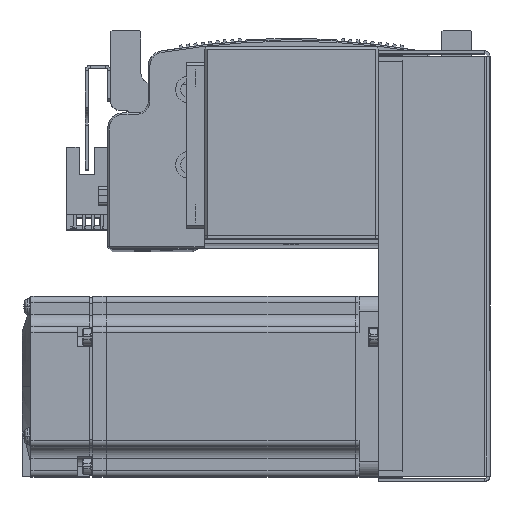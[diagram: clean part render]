
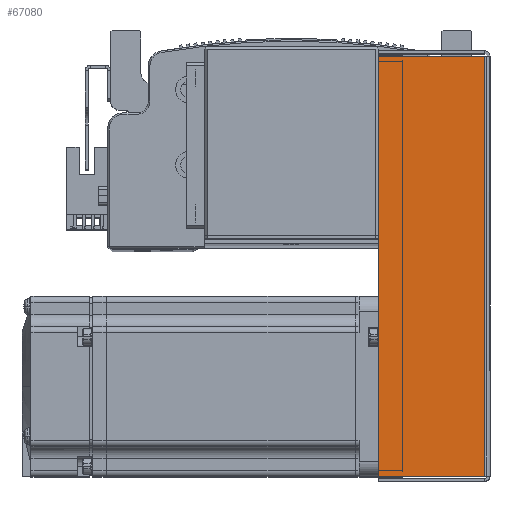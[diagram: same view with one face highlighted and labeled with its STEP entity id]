
A CAD part, top view. The second image highlights one B-rep face of the part: STEP entity #67080.
In plain terms, the highlighted planar face has unit normal (0, 0, 1).
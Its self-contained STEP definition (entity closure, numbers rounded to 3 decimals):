
#7555 = ORIENTED_EDGE ( 'NONE', *, *, #66858, .T. ) ;
#7568 = ORIENTED_EDGE ( 'NONE', *, *, #66816, .F. ) ;
#7571 = ORIENTED_EDGE ( 'NONE', *, *, #66852, .T. ) ;
#7607 = ORIENTED_EDGE ( 'NONE', *, *, #66818, .F. ) ;
#13203 = CARTESIAN_POINT ( 'NONE',  ( 69.793, 36., 33.5 ) ) ;
#13299 = CARTESIAN_POINT ( 'NONE',  ( 69.793, 0.737, 33.5 ) ) ;
#13306 = CARTESIAN_POINT ( 'NONE',  ( -69.793, 0.737, 33.5 ) ) ;
#13320 = CARTESIAN_POINT ( 'NONE',  ( -69.793, 36., 33.5 ) ) ;
#18027 = AXIS2_PLACEMENT_3D ( 'NONE', #35984, #35964, #36002 ) ;
#20749 = VERTEX_POINT ( 'NONE', #13203 ) ;
#20758 = VERTEX_POINT ( 'NONE', #13320 ) ;
#20780 = VERTEX_POINT ( 'NONE', #13306 ) ;
#20794 = VERTEX_POINT ( 'NONE', #13299 ) ;
#35964 = DIRECTION ( 'NONE',  ( 0., 0., -1. ) ) ;
#35971 = PLANE ( 'NONE',  #18027 ) ;
#35984 = CARTESIAN_POINT ( 'NONE',  ( 0., 0., 33.5 ) ) ;
#36002 = DIRECTION ( 'NONE',  ( -1., 0., 0. ) ) ;
#49059 = CARTESIAN_POINT ( 'NONE',  ( -71.5, 0.737, 33.5 ) ) ;
#49061 = CARTESIAN_POINT ( 'NONE',  ( -69.793, 0., 33.5 ) ) ;
#49090 = DIRECTION ( 'NONE',  ( -1., 0., 0. ) ) ;
#49097 = DIRECTION ( 'NONE',  ( 0., 1., 0. ) ) ;
#49214 = CARTESIAN_POINT ( 'NONE',  ( 0., 36., 33.5 ) ) ;
#49215 = DIRECTION ( 'NONE',  ( 0., 1., 0. ) ) ;
#49232 = DIRECTION ( 'NONE',  ( -1., 0., 0. ) ) ;
#49248 = CARTESIAN_POINT ( 'NONE',  ( 69.793, 0., 33.5 ) ) ;
#59907 = FACE_OUTER_BOUND ( 'NONE', #72171, .T. ) ;
#66816 = EDGE_CURVE ( 'NONE', #20794, #20780, #71898, .T. ) ;
#66818 = EDGE_CURVE ( 'NONE', #20780, #20758, #71935, .T. ) ;
#66852 = EDGE_CURVE ( 'NONE', #20794, #20749, #72003, .T. ) ;
#66858 = EDGE_CURVE ( 'NONE', #20749, #20758, #71970, .T. ) ;
#67080 = ADVANCED_FACE ( 'NONE', ( #59907 ), #35971, .F. ) ;
#71898 = LINE ( 'NONE', #49059, #71905 ) ;
#71905 = VECTOR ( 'NONE', #49090, 1000. ) ;
#71919 = VECTOR ( 'NONE', #49097, 1000. ) ;
#71935 = LINE ( 'NONE', #49061, #71919 ) ;
#71961 = VECTOR ( 'NONE', #49232, 1000. ) ;
#71970 = LINE ( 'NONE', #49214, #71961 ) ;
#71977 = VECTOR ( 'NONE', #49215, 1000. ) ;
#72003 = LINE ( 'NONE', #49248, #71977 ) ;
#72171 = EDGE_LOOP ( 'NONE', ( #7568, #7571, #7555, #7607 ) ) ;
